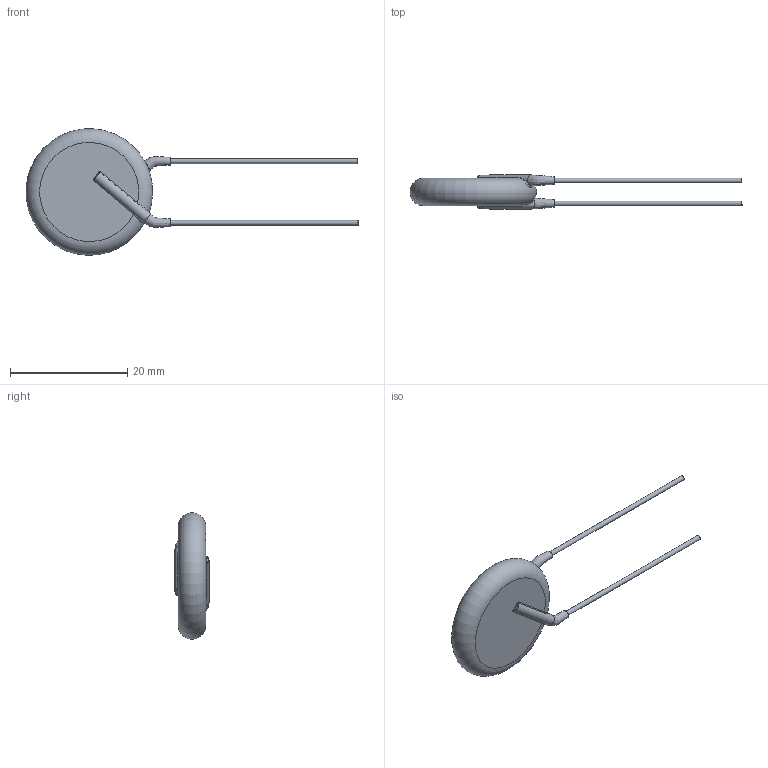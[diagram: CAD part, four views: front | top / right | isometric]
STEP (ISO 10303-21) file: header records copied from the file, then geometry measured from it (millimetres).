
FILE_DESCRIPTION(/* description */ (''),/* implementation_level */ '2;1');
FILE_NAME(/* name */ 'I:\Marketing\M6t1\3D-Models\Zchng-Werk-3\Upload for homepage\Ceramite\Y5U\440LS10-R\440LS10-R.stp',/* time_stamp */ '2016-11-10T15:05:54+01:00',/* author */ ('sheinrich'),/* organization */ (''),/* preprocessor_version */ 'ST-DEVELOPER v16.1',/* originating_system */ 'Autodesk Inventor 2016',/* authorisation */ '');
FILE_SCHEMA (('AUTOMOTIVE_DESIGN { 1 0 10303 214 3 1 1 }'));
Length unit declared in the file: millimetre
Products named in the file (1): 440LS10-R
Bounding box: 56.58 x 5.8 x 21.56 mm (x, y, z)
Volume: 1641.9 mm3; surface area: 1132.1 mm2
Topology: 1 solids, 1 shells, 39 faces, 84 edges, 45 vertices
Faces by surface type: bspline 12, cylinder 12, plane 8, torus 7
Full cylindrical faces by diameter (mm): 0.81 x2
Entity records: 1845 total; most frequent: CARTESIAN_POINT 1028, ORIENTED_EDGE 152, DIRECTION 144, EDGE_CURVE 76, AXIS2_PLACEMENT_3D 66, EDGE_LOOP 44, VERTEX_POINT 44, STYLED_ITEM 40
